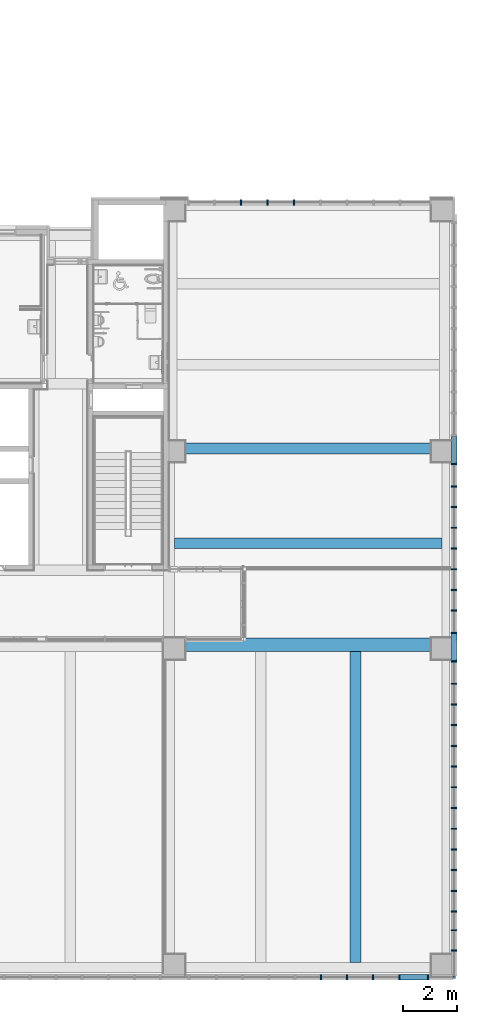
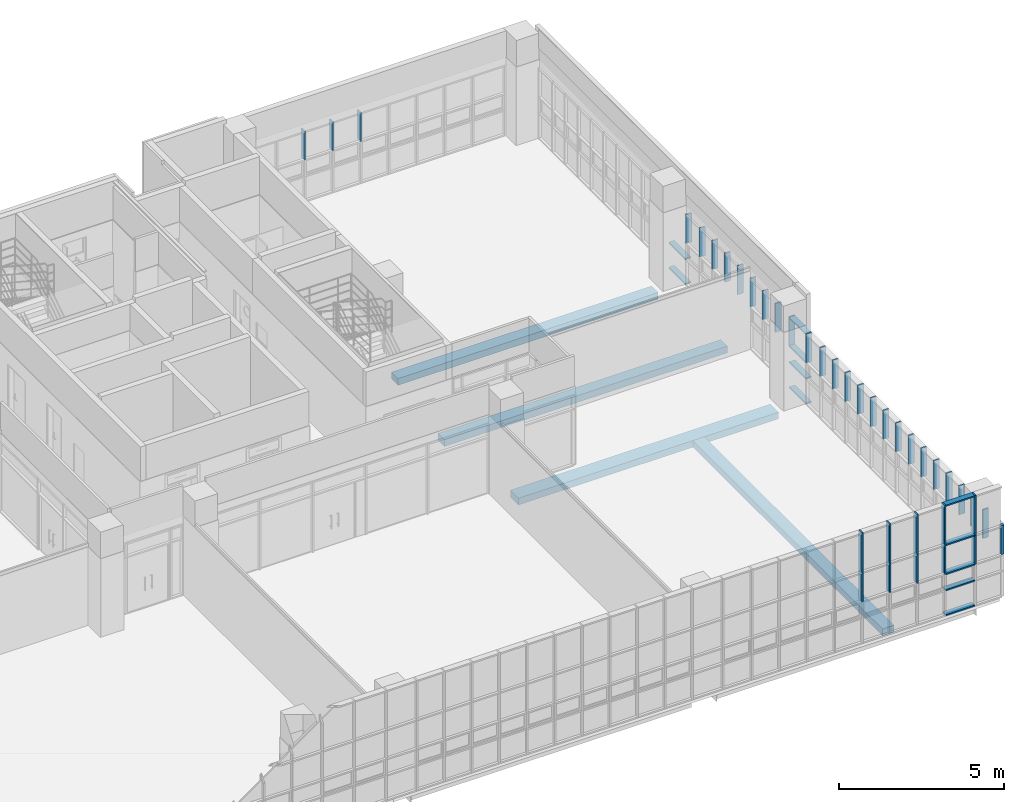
# One storey, part 8 of 76: 49 members, 4 beams, 3 elements without a shape of their own.
"""IFC2X3 building model written with IfcOpenShell, lengths in millimetres."""

from ifc_helpers import new_model, entity, si_unit, converted_unit, derived_unit, direction, frame, frame_2d, origin, origin_2d_with_axis, place, context, subcontext, project, spatial, rectangle, extrude, source, transform, mapped, material, type_object, type_shapes, element, aggregate, save


model = new_model("IFC2X3")

# Units and contexts
model_context = context("Model", 3, precision=0.01, world=origin(), true_north=direction((6.123031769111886e-17, 1.0)))
body_context = subcontext(model_context, "Body", "Model", "MODEL_VIEW")
ifc_project = project(units=[si_unit("LENGTHUNIT", "METRE", prefix="MILLI"), si_unit("AREAUNIT", "SQUARE_METRE"), si_unit("VOLUMEUNIT", "CUBIC_METRE"), converted_unit("PLANEANGLEUNIT", "DEGREE", entity("IfcRatioMeasure", 0.017453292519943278), si_unit("PLANEANGLEUNIT", "RADIAN"), dimensions=[0, 0, 0, 0, 0, 0, 0]), si_unit("MASSUNIT", "GRAM", prefix="KILO"), derived_unit("MASSDENSITYUNIT", [(si_unit("MASSUNIT", "GRAM", prefix="KILO"), 1), (si_unit("LENGTHUNIT", "METRE"), -3)]), derived_unit("MOMENTOFINERTIAUNIT", [(si_unit("LENGTHUNIT", "METRE"), 4)]), si_unit("TIMEUNIT", "SECOND"), si_unit("FREQUENCYUNIT", "HERTZ"), si_unit("THERMODYNAMICTEMPERATUREUNIT", "DEGREE_CELSIUS"), derived_unit("THERMALTRANSMITTANCEUNIT", [(si_unit("MASSUNIT", "GRAM", prefix="KILO"), 1), (si_unit("THERMODYNAMICTEMPERATUREUNIT", "KELVIN"), -1), (si_unit("TIMEUNIT", "SECOND"), -3)]), derived_unit("VOLUMETRICFLOWRATEUNIT", [(si_unit("LENGTHUNIT", "METRE"), 3), (si_unit("TIMEUNIT", "SECOND"), -1)]), derived_unit("MASSFLOWRATEUNIT", [(si_unit("MASSUNIT", "GRAM", prefix="KILO"), 1), (si_unit("TIMEUNIT", "SECOND"), -1)]), derived_unit("ROTATIONALFREQUENCYUNIT", [(si_unit("TIMEUNIT", "SECOND"), -1)]), si_unit("ELECTRICCURRENTUNIT", "AMPERE"), si_unit("ELECTRICVOLTAGEUNIT", "VOLT"), si_unit("POWERUNIT", "WATT"), si_unit("FORCEUNIT", "NEWTON", prefix="KILO"), si_unit("ILLUMINANCEUNIT", "LUX"), si_unit("LUMINOUSFLUXUNIT", "LUMEN"), si_unit("LUMINOUSINTENSITYUNIT", "CANDELA"), derived_unit("USERDEFINED", [(si_unit("MASSUNIT", "GRAM", prefix="KILO"), -1), (si_unit("LENGTHUNIT", "METRE"), -2), (si_unit("TIMEUNIT", "SECOND"), 3), (si_unit("LUMINOUSFLUXUNIT", "LUMEN"), 1)]), derived_unit("SOUNDPOWERUNIT", [(si_unit("MASSUNIT", "GRAM", prefix="KILO"), 1), (si_unit("LENGTHUNIT", "METRE"), 2), (si_unit("TIMEUNIT", "SECOND"), -3)]), derived_unit("SOUNDPRESSUREUNIT", [(si_unit("MASSUNIT", "GRAM", prefix="KILO"), 1), (si_unit("LENGTHUNIT", "METRE"), -1), (si_unit("TIMEUNIT", "SECOND"), -2)]), derived_unit("LINEARVELOCITYUNIT", [(si_unit("LENGTHUNIT", "METRE"), 1), (si_unit("TIMEUNIT", "SECOND"), -1)]), si_unit("PRESSUREUNIT", "PASCAL"), derived_unit("USERDEFINED", [(si_unit("LENGTHUNIT", "METRE"), -2), (si_unit("MASSUNIT", "GRAM", prefix="KILO"), 1), (si_unit("TIMEUNIT", "SECOND"), -2)]), derived_unit("LINEARFORCEUNIT", [(si_unit("MASSUNIT", "GRAM", prefix="KILO"), 1), (si_unit("LENGTHUNIT", "METRE"), 1), (si_unit("TIMEUNIT", "SECOND"), -2), (si_unit("LENGTHUNIT", "METRE"), -1)]), derived_unit("PLANARFORCEUNIT", [(si_unit("MASSUNIT", "GRAM", prefix="KILO"), 1), (si_unit("LENGTHUNIT", "METRE"), 1), (si_unit("TIMEUNIT", "SECOND"), -2), (si_unit("LENGTHUNIT", "METRE"), -2)])], contexts=[model_context])

# Site, building, storey
site_placement = place(None, frame((-14167.972527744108, -657.2125860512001, 0.0)))
site = spatial("IfcSite", under=ifc_project, at=site_placement, Name="Default", CompositionType="ELEMENT")
building_placement = place(site_placement, origin())
building = spatial("IfcBuilding", under=site, at=building_placement, Name="Sample Building", CompositionType="ELEMENT")
storey_placement = place(building_placement, frame((0.0, 0.0, 9300.0)))
storey = spatial("IfcBuildingStorey", under=building, at=storey_placement, Name="지상 3층", CompositionType="ELEMENT", Elevation=9300.000000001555)

# Curtain wall, members
curtain_wall_type = type_object("IfcCurtainWallType", Name="커튼월:CW112-스테인리스 스틸 커튼월", PredefinedType="NOTDEFINED")
curtain_wall_1_placement = place(storey_placement, frame((0.0, 0.0, -9300.0)))
curtain_wall_1 = element("IfcCurtainWall", 1, at=curtain_wall_1_placement, inside=storey, type_object=curtain_wall_type, Name="커튼월:CW112-스테인리스 스틸 커튼월", ObjectType="커튼월:CW112-스테인리스 스틸 커튼월")
ifc_material_1 = material(Name="<Unnamed>")
member_type_1 = type_object("IfcMemberType", Name="직사각형 멀리언:CW200-직사각형 멀리언 50x200mm", PredefinedType="MULLION", material=ifc_material_1)
shared_shape_1 = source(origin(), body_context, "Body", "SweptSolid", [
    extrude(rectangle(XDim=200.0, YDim=50.0, at=origin_2d_with_axis()), frame((0.0, 0.0, -1070.0), z_axis=(0.0, 0.0, 1.0), x_axis=(0.0, -1.0, 0.0)), (0.0, 0.0, 1.0), 1070.000000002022),
])
type_shapes(member_type_1, [shared_shape_1])
member_1_placement = place(curtain_wall_1_placement, frame((45587.969022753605, 29157.212295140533, 10930.0), z_axis=(0.0, 0.0, -1.0), x_axis=(-1.0, 0.0, 0.0)))
member_1 = element("IfcMember", 2, at=member_1_placement, type_object=member_type_1, material=ifc_material_1, Name="직사각형 멀리언:CW200-직사각형 멀리언 50x200mm", ObjectType="직사각형 멀리언:CW200-직사각형 멀리언 50x200mm", context=body_context, shape_type="MappedRepresentation", body=[
    mapped(shared_shape_1, transform((0.0, 0.0, 0.0), scale=1.0)),
])
member_2_placement = place(curtain_wall_1_placement, frame((44607.96988839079, 29157.212295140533, 10930.0), z_axis=(0.0, 0.0, -1.0), x_axis=(-1.0, 0.0, 0.0)))
member_2 = element("IfcMember", 3, at=member_2_placement, type_object=member_type_1, material=ifc_material_1, Name="직사각형 멀리언:CW200-직사각형 멀리언 50x200mm", ObjectType="직사각형 멀리언:CW200-직사각형 멀리언 50x200mm", context=body_context, shape_type="MappedRepresentation", body=[
    mapped(shared_shape_1, transform((0.0, 0.0, 0.0), scale=1.0)),
])
member_3_placement = place(curtain_wall_1_placement, frame((43627.970754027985, 29157.212295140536, 10930.0), z_axis=(0.0, 0.0, -1.0), x_axis=(-1.0, 0.0, 0.0)))
member_3 = element("IfcMember", 4, at=member_3_placement, type_object=member_type_1, material=ifc_material_1, Name="직사각형 멀리언:CW200-직사각형 멀리언 50x200mm", ObjectType="직사각형 멀리언:CW200-직사각형 멀리언 50x200mm", context=body_context, shape_type="MappedRepresentation", body=[
    mapped(shared_shape_1, transform((0.0, 0.0, 0.0), scale=1.0)),
])
aggregate(curtain_wall_1, [member_1, member_2, member_3])

curtain_wall_2_placement = place(storey_placement, frame((0.0, 0.0, -9300.0)))
curtain_wall_2 = element("IfcCurtainWall", 5, at=curtain_wall_2_placement, inside=storey, type_object=curtain_wall_type, Name="커튼월:CW112-스테인리스 스틸 커튼월", ObjectType="커튼월:CW112-스테인리스 스틸 커튼월")
member_type_2 = type_object("IfcMemberType", Name="직사각형 멀리언:CW200-직사각형 멀리언 50x200mm", PredefinedType="MULLION", material=ifc_material_1)
shared_shape_2 = source(origin(), body_context, "Body", "SweptSolid", [
    extrude(rectangle(XDim=200.0, YDim=50.0, at=origin_2d_with_axis()), frame((0.0, 0.0, -1070.0), z_axis=(0.0, 0.0, 1.0), x_axis=(0.0, -1.0, 0.0)), (0.0, 0.0, 1.0), 1070.000000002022),
])
type_shapes(member_type_2, [shared_shape_2])
member_4_placement = place(curtain_wall_2_placement, frame((46590.15607007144, 507.2122951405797, 10930.0), z_axis=(0.0, 0.0, -1.0), x_axis=(1.0, 0.0, 0.0)))
member_4 = element("IfcMember", 6, at=member_4_placement, type_object=member_type_2, material=ifc_material_1, Name="직사각형 멀리언:CW200-직사각형 멀리언 50x200mm", ObjectType="직사각형 멀리언:CW200-직사각형 멀리언 50x200mm", context=body_context, shape_type="MappedRepresentation", body=[
    mapped(shared_shape_2, transform((0.0, 0.0, 0.0), scale=1.0)),
])
member_5_placement = place(curtain_wall_2_placement, frame((47555.15607007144, 507.21229514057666, 10930.0), z_axis=(0.0, 0.0, -1.0), x_axis=(1.0, 0.0, 0.0)))
member_5 = element("IfcMember", 7, at=member_5_placement, type_object=member_type_2, material=ifc_material_1, Name="직사각형 멀리언:CW200-직사각형 멀리언 50x200mm", ObjectType="직사각형 멀리언:CW200-직사각형 멀리언 50x200mm", context=body_context, shape_type="MappedRepresentation", body=[
    mapped(shared_shape_2, transform((0.0, 0.0, 0.0), scale=1.0)),
])
member_6_placement = place(curtain_wall_2_placement, frame((48520.15607007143, 507.21229514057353, 10930.0), z_axis=(0.0, 0.0, -1.0), x_axis=(1.0, 0.0, 0.0)))
member_6 = element("IfcMember", 8, at=member_6_placement, type_object=member_type_2, material=ifc_material_1, Name="직사각형 멀리언:CW200-직사각형 멀리언 50x200mm", ObjectType="직사각형 멀리언:CW200-직사각형 멀리언 50x200mm", context=body_context, shape_type="MappedRepresentation", body=[
    mapped(shared_shape_2, transform((0.0, 0.0, 0.0), scale=1.0)),
])
member_7_placement = place(curtain_wall_2_placement, frame((49485.15607007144, 507.2122951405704, 10930.0), z_axis=(0.0, 0.0, -1.0), x_axis=(1.0, 0.0, 0.0)))
member_7 = element("IfcMember", 9, at=member_7_placement, type_object=member_type_2, material=ifc_material_1, Name="직사각형 멀리언:CW200-직사각형 멀리언 50x200mm", ObjectType="직사각형 멀리언:CW200-직사각형 멀리언 50x200mm", context=body_context, shape_type="MappedRepresentation", body=[
    mapped(shared_shape_2, transform((0.0, 0.0, 0.0), scale=1.0)),
])
member_8_placement = place(curtain_wall_2_placement, frame((50550.15607007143, 507.21229514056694, 10930.0), z_axis=(0.0, 0.0, -1.0), x_axis=(1.0, 0.0, 0.0)))
member_8 = element("IfcMember", 10, at=member_8_placement, type_object=member_type_2, material=ifc_material_1, Name="직사각형 멀리언:CW200-직사각형 멀리언 50x200mm", ObjectType="직사각형 멀리언:CW200-직사각형 멀리언 50x200mm", context=body_context, shape_type="MappedRepresentation", body=[
    mapped(shared_shape_2, transform((0.0, 0.0, 0.0), scale=1.0)),
])
member_type_3 = type_object("IfcMemberType", Name="직사각형 멀리언:CW200-직사각형 멀리언 50x200mm", PredefinedType="MULLION", material=ifc_material_1)
shared_shape_3 = source(origin(), body_context, "Body", "SweptSolid", [
    extrude(rectangle(XDim=200.0, YDim=50.0, at=origin_2d_with_axis()), frame((0.0, 0.0, -1480.0), z_axis=(0.0, 0.0, 1.0), x_axis=(0.0, -1.0, 0.0)), (0.0, 0.0, 1.0), 1479.9999999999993),
])
type_shapes(member_type_3, [shared_shape_3])
member_9_placement = place(curtain_wall_2_placement, frame((46590.15607007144, 507.2122951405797, 12000.0), z_axis=(0.0, 0.0, -1.0), x_axis=(1.0, 0.0, 0.0)))
member_9 = element("IfcMember", 11, at=member_9_placement, type_object=member_type_3, material=ifc_material_1, Name="직사각형 멀리언:CW200-직사각형 멀리언 50x200mm", ObjectType="직사각형 멀리언:CW200-직사각형 멀리언 50x200mm", context=body_context, shape_type="MappedRepresentation", body=[
    mapped(shared_shape_3, transform((0.0, 0.0, 0.0), scale=1.0)),
])
member_10_placement = place(curtain_wall_2_placement, frame((47555.15607007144, 507.21229514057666, 12000.0), z_axis=(0.0, 0.0, -1.0), x_axis=(1.0, 0.0, 0.0)))
member_10 = element("IfcMember", 12, at=member_10_placement, type_object=member_type_3, material=ifc_material_1, Name="직사각형 멀리언:CW200-직사각형 멀리언 50x200mm", ObjectType="직사각형 멀리언:CW200-직사각형 멀리언 50x200mm", context=body_context, shape_type="MappedRepresentation", body=[
    mapped(shared_shape_3, transform((0.0, 0.0, 0.0), scale=1.0)),
])
member_11_placement = place(curtain_wall_2_placement, frame((48520.15607007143, 507.21229514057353, 12000.0), z_axis=(0.0, 0.0, -1.0), x_axis=(1.0, 0.0, 0.0)))
member_11 = element("IfcMember", 13, at=member_11_placement, type_object=member_type_3, material=ifc_material_1, Name="직사각형 멀리언:CW200-직사각형 멀리언 50x200mm", ObjectType="직사각형 멀리언:CW200-직사각형 멀리언 50x200mm", context=body_context, shape_type="MappedRepresentation", body=[
    mapped(shared_shape_3, transform((0.0, 0.0, 0.0), scale=1.0)),
])
member_12_placement = place(curtain_wall_2_placement, frame((49485.15607007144, 507.2122951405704, 12000.0), z_axis=(0.0, 0.0, -1.0), x_axis=(1.0, 0.0, 0.0)))
member_12 = element("IfcMember", 14, at=member_12_placement, type_object=member_type_3, material=ifc_material_1, Name="직사각형 멀리언:CW200-직사각형 멀리언 50x200mm", ObjectType="직사각형 멀리언:CW200-직사각형 멀리언 50x200mm", context=body_context, shape_type="MappedRepresentation", body=[
    mapped(shared_shape_3, transform((0.0, 0.0, 0.0), scale=1.0)),
])
member_13_placement = place(curtain_wall_2_placement, frame((50550.15607007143, 507.21229514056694, 12000.0), z_axis=(0.0, 0.0, -1.0), x_axis=(1.0, 0.0, 0.0)))
member_13 = element("IfcMember", 15, at=member_13_placement, type_object=member_type_3, material=ifc_material_1, Name="직사각형 멀리언:CW200-직사각형 멀리언 50x200mm", ObjectType="직사각형 멀리언:CW200-직사각형 멀리언 50x200mm", context=body_context, shape_type="MappedRepresentation", body=[
    mapped(shared_shape_3, transform((0.0, 0.0, 0.0), scale=1.0)),
])
member_type_4 = type_object("IfcMemberType", Name="직사각형 멀리언:CW200-직사각형 멀리언 50x200mm", PredefinedType="MULLION", material=ifc_material_1)
shared_shape_4 = source(origin(), body_context, "Body", "SweptSolid", [
    extrude(rectangle(XDim=200.0, YDim=50.0, at=origin_2d_with_axis()), frame((-25.0, 0.0, -1015.0), z_axis=(0.0, 0.0, 1.0), x_axis=(0.0, -1.0, 0.0)), (0.0, 0.0, 1.0), 1015.000000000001),
])
type_shapes(member_type_4, [shared_shape_4])
member_14_placement = place(curtain_wall_2_placement, frame((50525.15607007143, 507.21229514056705, 13480.0), z_axis=(1.0, 0.0, 0.0), x_axis=(0.0, 0.0, 1.0)))
member_14 = element("IfcMember", 16, at=member_14_placement, type_object=member_type_4, material=ifc_material_1, Name="직사각형 멀리언:CW200-직사각형 멀리언 50x200mm", ObjectType="직사각형 멀리언:CW200-직사각형 멀리언 50x200mm", context=body_context, shape_type="MappedRepresentation", body=[
    mapped(shared_shape_4, transform((0.0, 0.0, 0.0), scale=1.0)),
])
member_type_5 = type_object("IfcMemberType", Name="직사각형 멀리언:CW200-직사각형 멀리언 50x200mm", PredefinedType="MULLION", material=ifc_material_1)
shared_shape_5 = source(origin(), body_context, "Body", "SweptSolid", [
    extrude(rectangle(XDim=200.0, YDim=50.0, at=origin_2d_with_axis()), frame((-25.0, 0.0, -1015.0), z_axis=(0.0, 0.0, 1.0), x_axis=(0.0, -1.0, 0.0)), (0.0, 0.0, 1.0), 1014.9999999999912),
])
type_shapes(member_type_5, [shared_shape_5])
member_15_placement = place(curtain_wall_2_placement, frame((49510.15607007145, 507.21229514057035, 9380.0), z_axis=(-1.0, 0.0, 0.0), x_axis=(0.0, 0.0, -1.0)))
member_15 = element("IfcMember", 17, at=member_15_placement, type_object=member_type_5, material=ifc_material_1, Name="직사각형 멀리언:CW200-직사각형 멀리언 50x200mm", ObjectType="직사각형 멀리언:CW200-직사각형 멀리언 50x200mm", context=body_context, shape_type="MappedRepresentation", body=[
    mapped(shared_shape_5, transform((0.0, 0.0, 0.0), scale=1.0)),
])
member_type_6 = type_object("IfcMemberType", Name="직사각형 멀리언:CW200-직사각형 멀리언 50x200mm", PredefinedType="MULLION", material=ifc_material_1)
shared_shape_6 = source(origin(), body_context, "Body", "SweptSolid", [
    extrude(rectangle(XDim=200.0, YDim=50.0, at=origin_2d_with_axis()), frame((0.0, 0.0, -1015.0), z_axis=(0.0, 0.0, 1.0), x_axis=(0.0, -1.0, 0.0)), (0.0, 0.0, 1.0), 1014.9999999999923),
])
type_shapes(member_type_6, [shared_shape_6])
member_16_placement = place(curtain_wall_2_placement, frame((50525.15607007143, 507.21229514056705, 10330.0), z_axis=(1.0, 0.0, 0.0), x_axis=(0.0, 0.0, 1.0)))
member_16 = element("IfcMember", 18, at=member_16_placement, type_object=member_type_6, material=ifc_material_1, Name="직사각형 멀리언:CW200-직사각형 멀리언 50x200mm", ObjectType="직사각형 멀리언:CW200-직사각형 멀리언 50x200mm", context=body_context, shape_type="MappedRepresentation", body=[
    mapped(shared_shape_6, transform((0.0, 0.0, 0.0), scale=1.0)),
])
member_17_placement = place(curtain_wall_2_placement, frame((50525.15607007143, 507.21229514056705, 10930.0), z_axis=(1.0, 0.0, 0.0), x_axis=(0.0, 0.0, 1.0)))
member_17 = element("IfcMember", 19, at=member_17_placement, type_object=member_type_6, material=ifc_material_1, Name="직사각형 멀리언:CW200-직사각형 멀리언 50x200mm", ObjectType="직사각형 멀리언:CW200-직사각형 멀리언 50x200mm", context=body_context, shape_type="MappedRepresentation", body=[
    mapped(shared_shape_6, transform((0.0, 0.0, 0.0), scale=1.0)),
])
member_18_placement = place(curtain_wall_2_placement, frame((50525.15607007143, 507.21229514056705, 12000.0), z_axis=(1.0, 0.0, 0.0), x_axis=(0.0, 0.0, 1.0)))
member_18 = element("IfcMember", 20, at=member_18_placement, type_object=member_type_6, material=ifc_material_1, Name="직사각형 멀리언:CW200-직사각형 멀리언 50x200mm", ObjectType="직사각형 멀리언:CW200-직사각형 멀리언 50x200mm", context=body_context, shape_type="MappedRepresentation", body=[
    mapped(shared_shape_6, transform((0.0, 0.0, 0.0), scale=1.0)),
])
aggregate(curtain_wall_2, [member_14, member_15, member_16, member_17, member_18, member_4, member_5, member_6, member_7, member_8, member_9, member_10, member_11, member_12, member_13])

curtain_wall_3_placement = place(storey_placement, frame((0.0, 0.0, -9300.0)))
curtain_wall_3 = element("IfcCurtainWall", 21, at=curtain_wall_3_placement, inside=storey, type_object=curtain_wall_type, Name="커튼월:CW112-스테인리스 스틸 커튼월", ObjectType="커튼월:CW112-스테인리스 스틸 커튼월")
member_type_7 = type_object("IfcMemberType", Name="직사각형 멀리언:CW200-직사각형 멀리언 100 x 100mm", PredefinedType="MULLION", material=ifc_material_1)
shared_shape_7 = source(origin(), body_context, "Body", "SweptSolid", [
    extrude(rectangle(XDim=99.99999999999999, YDim=100.0, at=origin_2d_with_axis()), frame((-50.0, 0.0, -1070.0), z_axis=(0.0, 0.0, 1.0), x_axis=(0.0, -1.0, 0.0)), (0.0, 0.0, 1.0), 1070.000000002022),
])
type_shapes(member_type_7, [shared_shape_7])
member_19_placement = place(curtain_wall_3_placement, frame((51517.96382893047, 457.2123079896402, 10930.0), z_axis=(0.0, 0.0, -1.0), x_axis=(0.0, -1.0, 0.0)))
member_19 = element("IfcMember", 22, at=member_19_placement, type_object=member_type_7, material=ifc_material_1, Name="직사각형 멀리언:CW200-직사각형 멀리언 100 x 100mm", ObjectType="직사각형 멀리언:CW200-직사각형 멀리언 100 x 100mm", context=body_context, shape_type="MappedRepresentation", body=[
    mapped(shared_shape_7, transform((0.0, 0.0, 0.0), scale=1.0)),
])
member_type_8 = type_object("IfcMemberType", Name="직사각형 멀리언:CW200-직사각형 멀리언 50x200mm", PredefinedType="MULLION", material=ifc_material_1)
shared_shape_8 = source(origin(), body_context, "Body", "SweptSolid", [
    extrude(rectangle(XDim=200.0, YDim=50.0, at=origin_2d_with_axis()), frame((0.0, 0.0, -1070.0), z_axis=(0.0, 0.0, 1.0), x_axis=(0.0, -1.0, 0.0)), (0.0, 0.0, 1.0), 1070.000000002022),
])
type_shapes(member_type_8, [shared_shape_8])
member_20_placement = place(curtain_wall_3_placement, frame((51517.963828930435, 17896.817707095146, 10930.0), z_axis=(0.0, 0.0, -1.0), x_axis=(0.0, -1.0, 0.0)))
member_20 = element("IfcMember", 23, at=member_20_placement, type_object=member_type_8, material=ifc_material_1, Name="직사각형 멀리언:CW200-직사각형 멀리언 50x200mm", ObjectType="직사각형 멀리언:CW200-직사각형 멀리언 50x200mm", context=body_context, shape_type="MappedRepresentation", body=[
    mapped(shared_shape_8, transform((0.0, 0.0, 0.0), scale=1.0)),
])
member_21_placement = place(curtain_wall_3_placement, frame((51517.963828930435, 19488.817707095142, 10930.0), z_axis=(0.0, 0.0, -1.0), x_axis=(0.0, -1.0, 0.0)))
member_21 = element("IfcMember", 24, at=member_21_placement, type_object=member_type_8, material=ifc_material_1, Name="직사각형 멀리언:CW200-직사각형 멀리언 50x200mm", ObjectType="직사각형 멀리언:CW200-직사각형 멀리언 50x200mm", context=body_context, shape_type="MappedRepresentation", body=[
    mapped(shared_shape_8, transform((0.0, 0.0, 0.0), scale=1.0)),
])
member_22_placement = place(curtain_wall_3_placement, frame((51517.96382893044, 17130.817707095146, 10930.0), z_axis=(0.0, 0.0, -1.0), x_axis=(0.0, -1.0, 0.0)))
member_22 = element("IfcMember", 25, at=member_22_placement, type_object=member_type_8, material=ifc_material_1, Name="직사각형 멀리언:CW200-직사각형 멀리언 50x200mm", ObjectType="직사각형 멀리언:CW200-직사각형 멀리언 50x200mm", context=body_context, shape_type="MappedRepresentation", body=[
    mapped(shared_shape_8, transform((0.0, 0.0, 0.0), scale=1.0)),
])
member_23_placement = place(curtain_wall_3_placement, frame((51517.96382893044, 14832.81770709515, 10930.0), z_axis=(0.0, 0.0, -1.0), x_axis=(0.0, -1.0, 0.0)))
member_23 = element("IfcMember", 26, at=member_23_placement, type_object=member_type_8, material=ifc_material_1, Name="직사각형 멀리언:CW200-직사각형 멀리언 50x200mm", ObjectType="직사각형 멀리언:CW200-직사각형 멀리언 50x200mm", context=body_context, shape_type="MappedRepresentation", body=[
    mapped(shared_shape_8, transform((0.0, 0.0, 0.0), scale=1.0)),
])
member_24_placement = place(curtain_wall_3_placement, frame((51517.96382893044, 14066.81770709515, 10930.0), z_axis=(0.0, 0.0, -1.0), x_axis=(0.0, -1.0, 0.0)))
member_24 = element("IfcMember", 27, at=member_24_placement, type_object=member_type_8, material=ifc_material_1, Name="직사각형 멀리언:CW200-직사각형 멀리언 50x200mm", ObjectType="직사각형 멀리언:CW200-직사각형 멀리언 50x200mm", context=body_context, shape_type="MappedRepresentation", body=[
    mapped(shared_shape_8, transform((0.0, 0.0, 0.0), scale=1.0)),
])
member_25_placement = place(curtain_wall_3_placement, frame((51517.96382893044, 12190.817707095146, 10930.0), z_axis=(0.0, 0.0, -1.0), x_axis=(0.0, -1.0, 0.0)))
member_25 = element("IfcMember", 28, at=member_25_placement, type_object=member_type_8, material=ifc_material_1, Name="직사각형 멀리언:CW200-직사각형 멀리언 50x200mm", ObjectType="직사각형 멀리언:CW200-직사각형 멀리언 50x200mm", context=body_context, shape_type="MappedRepresentation", body=[
    mapped(shared_shape_8, transform((0.0, 0.0, 0.0), scale=1.0)),
])
member_26_placement = place(curtain_wall_3_placement, frame((51517.96382893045, 9832.81770709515, 10930.0), z_axis=(0.0, 0.0, -1.0), x_axis=(0.0, -1.0, 0.0)))
member_26 = element("IfcMember", 29, at=member_26_placement, type_object=member_type_8, material=ifc_material_1, Name="직사각형 멀리언:CW200-직사각형 멀리언 50x200mm", ObjectType="직사각형 멀리언:CW200-직사각형 멀리언 50x200mm", context=body_context, shape_type="MappedRepresentation", body=[
    mapped(shared_shape_8, transform((0.0, 0.0, 0.0), scale=1.0)),
])
member_27_placement = place(curtain_wall_3_placement, frame((51517.96382893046, 3704.817707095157, 10930.0), z_axis=(0.0, 0.0, -1.0), x_axis=(0.0, -1.0, 0.0)))
member_27 = element("IfcMember", 30, at=member_27_placement, type_object=member_type_8, material=ifc_material_1, Name="직사각형 멀리언:CW200-직사각형 멀리언 50x200mm", ObjectType="직사각형 멀리언:CW200-직사각형 멀리언 50x200mm", context=body_context, shape_type="MappedRepresentation", body=[
    mapped(shared_shape_8, transform((0.0, 0.0, 0.0), scale=1.0)),
])
member_28_placement = place(curtain_wall_3_placement, frame((51517.96382893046, 2938.817707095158, 10930.0), z_axis=(0.0, 0.0, -1.0), x_axis=(0.0, -1.0, 0.0)))
member_28 = element("IfcMember", 31, at=member_28_placement, type_object=member_type_8, material=ifc_material_1, Name="직사각형 멀리언:CW200-직사각형 멀리언 50x200mm", ObjectType="직사각형 멀리언:CW200-직사각형 멀리언 50x200mm", context=body_context, shape_type="MappedRepresentation", body=[
    mapped(shared_shape_8, transform((0.0, 0.0, 0.0), scale=1.0)),
])
member_29_placement = place(curtain_wall_3_placement, frame((51517.96382893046, 2246.817707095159, 10930.0), z_axis=(0.0, 0.0, -1.0), x_axis=(0.0, -1.0, 0.0)))
member_29 = element("IfcMember", 32, at=member_29_placement, type_object=member_type_8, material=ifc_material_1, Name="직사각형 멀리언:CW200-직사각형 멀리언 50x200mm", ObjectType="직사각형 멀리언:CW200-직사각형 멀리언 50x200mm", context=body_context, shape_type="MappedRepresentation", body=[
    mapped(shared_shape_8, transform((0.0, 0.0, 0.0), scale=1.0)),
])
member_30_placement = place(curtain_wall_3_placement, frame((51517.96382893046, 1494.8177070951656, 10930.0), z_axis=(0.0, 0.0, -1.0), x_axis=(0.0, -1.0, 0.0)))
member_30 = element("IfcMember", 33, at=member_30_placement, type_object=member_type_8, material=ifc_material_1, Name="직사각형 멀리언:CW200-직사각형 멀리언 50x200mm", ObjectType="직사각형 멀리언:CW200-직사각형 멀리언 50x200mm", context=body_context, shape_type="MappedRepresentation", body=[
    mapped(shared_shape_8, transform((0.0, 0.0, 0.0), scale=1.0)),
])
member_31_placement = place(curtain_wall_3_placement, frame((51517.96382893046, 4470.817707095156, 10930.0), z_axis=(0.0, 0.0, -1.0), x_axis=(0.0, -1.0, 0.0)))
member_31 = element("IfcMember", 34, at=member_31_placement, type_object=member_type_8, material=ifc_material_1, Name="직사각형 멀리언:CW200-직사각형 멀리언 50x200mm", ObjectType="직사각형 멀리언:CW200-직사각형 멀리언 50x200mm", context=body_context, shape_type="MappedRepresentation", body=[
    mapped(shared_shape_8, transform((0.0, 0.0, 0.0), scale=1.0)),
])
member_32_placement = place(curtain_wall_3_placement, frame((51517.96382893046, 5236.817707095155, 10930.0), z_axis=(0.0, 0.0, -1.0), x_axis=(0.0, -1.0, 0.0)))
member_32 = element("IfcMember", 35, at=member_32_placement, type_object=member_type_8, material=ifc_material_1, Name="직사각형 멀리언:CW200-직사각형 멀리언 50x200mm", ObjectType="직사각형 멀리언:CW200-직사각형 멀리언 50x200mm", context=body_context, shape_type="MappedRepresentation", body=[
    mapped(shared_shape_8, transform((0.0, 0.0, 0.0), scale=1.0)),
])
member_33_placement = place(curtain_wall_3_placement, frame((51517.96382893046, 6002.817707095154, 10930.0), z_axis=(0.0, 0.0, -1.0), x_axis=(0.0, -1.0, 0.0)))
member_33 = element("IfcMember", 36, at=member_33_placement, type_object=member_type_8, material=ifc_material_1, Name="직사각형 멀리언:CW200-직사각형 멀리언 50x200mm", ObjectType="직사각형 멀리언:CW200-직사각형 멀리언 50x200mm", context=body_context, shape_type="MappedRepresentation", body=[
    mapped(shared_shape_8, transform((0.0, 0.0, 0.0), scale=1.0)),
])
member_34_placement = place(curtain_wall_3_placement, frame((51517.96382893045, 6768.817707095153, 10930.0), z_axis=(0.0, 0.0, -1.0), x_axis=(0.0, -1.0, 0.0)))
member_34 = element("IfcMember", 37, at=member_34_placement, type_object=member_type_8, material=ifc_material_1, Name="직사각형 멀리언:CW200-직사각형 멀리언 50x200mm", ObjectType="직사각형 멀리언:CW200-직사각형 멀리언 50x200mm", context=body_context, shape_type="MappedRepresentation", body=[
    mapped(shared_shape_8, transform((0.0, 0.0, 0.0), scale=1.0)),
])
member_35_placement = place(curtain_wall_3_placement, frame((51517.96382893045, 7534.817707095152, 10930.0), z_axis=(0.0, 0.0, -1.0), x_axis=(0.0, -1.0, 0.0)))
member_35 = element("IfcMember", 38, at=member_35_placement, type_object=member_type_8, material=ifc_material_1, Name="직사각형 멀리언:CW200-직사각형 멀리언 50x200mm", ObjectType="직사각형 멀리언:CW200-직사각형 멀리언 50x200mm", context=body_context, shape_type="MappedRepresentation", body=[
    mapped(shared_shape_8, transform((0.0, 0.0, 0.0), scale=1.0)),
])
member_36_placement = place(curtain_wall_3_placement, frame((51517.96382893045, 8300.817707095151, 10930.0), z_axis=(0.0, 0.0, -1.0), x_axis=(0.0, -1.0, 0.0)))
member_36 = element("IfcMember", 39, at=member_36_placement, type_object=member_type_8, material=ifc_material_1, Name="직사각형 멀리언:CW200-직사각형 멀리언 50x200mm", ObjectType="직사각형 멀리언:CW200-직사각형 멀리언 50x200mm", context=body_context, shape_type="MappedRepresentation", body=[
    mapped(shared_shape_8, transform((0.0, 0.0, 0.0), scale=1.0)),
])
member_37_placement = place(curtain_wall_3_placement, frame((51517.96382893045, 9066.817707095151, 10930.0), z_axis=(0.0, 0.0, -1.0), x_axis=(0.0, -1.0, 0.0)))
member_37 = element("IfcMember", 40, at=member_37_placement, type_object=member_type_8, material=ifc_material_1, Name="직사각형 멀리언:CW200-직사각형 멀리언 50x200mm", ObjectType="직사각형 멀리언:CW200-직사각형 멀리언 50x200mm", context=body_context, shape_type="MappedRepresentation", body=[
    mapped(shared_shape_8, transform((0.0, 0.0, 0.0), scale=1.0)),
])
member_38_placement = place(curtain_wall_3_placement, frame((51517.96382893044, 15598.817707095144, 10930.0), z_axis=(0.0, 0.0, -1.0), x_axis=(0.0, -1.0, 0.0)))
member_38 = element("IfcMember", 41, at=member_38_placement, type_object=member_type_8, material=ifc_material_1, Name="직사각형 멀리언:CW200-직사각형 멀리언 50x200mm", ObjectType="직사각형 멀리언:CW200-직사각형 멀리언 50x200mm", context=body_context, shape_type="MappedRepresentation", body=[
    mapped(shared_shape_8, transform((0.0, 0.0, 0.0), scale=1.0)),
])
member_39_placement = place(curtain_wall_3_placement, frame((51517.96382893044, 16364.817707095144, 10930.0), z_axis=(0.0, 0.0, -1.0), x_axis=(0.0, -1.0, 0.0)))
member_39 = element("IfcMember", 42, at=member_39_placement, type_object=member_type_8, material=ifc_material_1, Name="직사각형 멀리언:CW200-직사각형 멀리언 50x200mm", ObjectType="직사각형 멀리언:CW200-직사각형 멀리언 50x200mm", context=body_context, shape_type="MappedRepresentation", body=[
    mapped(shared_shape_8, transform((0.0, 0.0, 0.0), scale=1.0)),
])
member_40_placement = place(curtain_wall_3_placement, frame((51517.96382893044, 13240.817707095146, 10930.0), z_axis=(0.0, 0.0, -1.0), x_axis=(0.0, -1.0, 0.0)))
member_40 = element("IfcMember", 43, at=member_40_placement, type_object=member_type_8, material=ifc_material_1, Name="직사각형 멀리언:CW200-직사각형 멀리언 50x200mm", ObjectType="직사각형 멀리언:CW200-직사각형 멀리언 50x200mm", context=body_context, shape_type="MappedRepresentation", body=[
    mapped(shared_shape_8, transform((0.0, 0.0, 0.0), scale=1.0)),
])
member_type_9 = type_object("IfcMemberType", Name="직사각형 멀리언:CW200-직사각형 멀리언 50x200mm", PredefinedType="MULLION", material=ifc_material_1)
shared_shape_9 = source(origin(), body_context, "Body", "SweptSolid", [
    extrude(rectangle(XDim=200.0, YDim=50.0, at=origin_2d_with_axis()), frame((-25.0, 0.0, -1000.0), z_axis=(0.0, 0.0, 1.0), x_axis=(0.0, -1.0, 0.0)), (0.0, 0.0, 1.0), 1000.0000000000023),
])
type_shapes(member_type_9, [shared_shape_9])
member_41_placement = place(curtain_wall_3_placement, frame((51517.963828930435, 20513.817707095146, 9380.0), z_axis=(0.0, 1.0, 0.0), x_axis=(0.0, 0.0, -1.0)))
member_41 = element("IfcMember", 44, at=member_41_placement, type_object=member_type_9, material=ifc_material_1, Name="직사각형 멀리언:CW200-직사각형 멀리언 50x200mm", ObjectType="직사각형 멀리언:CW200-직사각형 멀리언 50x200mm", context=body_context, shape_type="MappedRepresentation", body=[
    mapped(shared_shape_9, transform((0.0, 0.0, 0.0), scale=1.0)),
])
member_42_placement = place(curtain_wall_3_placement, frame((51517.96382893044, 13215.817707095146, 9380.0), z_axis=(0.0, 1.0, 0.0), x_axis=(0.0, 0.0, -1.0)))
member_42 = element("IfcMember", 45, at=member_42_placement, type_object=member_type_9, material=ifc_material_1, Name="직사각형 멀리언:CW200-직사각형 멀리언 50x200mm", ObjectType="직사각형 멀리언:CW200-직사각형 멀리언 50x200mm", context=body_context, shape_type="MappedRepresentation", body=[
    mapped(shared_shape_9, transform((0.0, 0.0, 0.0), scale=1.0)),
])
member_type_10 = type_object("IfcMemberType", Name="직사각형 멀리언:CW200-직사각형 멀리언 50x200mm", PredefinedType="MULLION", material=ifc_material_1)
shared_shape_10 = source(origin(), body_context, "Body", "SweptSolid", [
    extrude(rectangle(XDim=200.0, YDim=50.0, at=origin_2d_with_axis()), frame((0.0, 0.0, -1000.0), z_axis=(0.0, 0.0, 1.0), x_axis=(0.0, -1.0, 0.0)), (0.0, 0.0, 1.0), 1000.0000000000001),
])
type_shapes(member_type_10, [shared_shape_10])
member_43_placement = place(curtain_wall_3_placement, frame((51517.963828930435, 19513.817707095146, 10330.0), z_axis=(0.0, -1.0, 0.0), x_axis=(0.0, 0.0, 1.0)))
member_43 = element("IfcMember", 46, at=member_43_placement, type_object=member_type_10, material=ifc_material_1, Name="직사각형 멀리언:CW200-직사각형 멀리언 50x200mm", ObjectType="직사각형 멀리언:CW200-직사각형 멀리언 50x200mm", context=body_context, shape_type="MappedRepresentation", body=[
    mapped(shared_shape_10, transform((0.0, 0.0, 0.0), scale=1.0)),
])
member_44_placement = place(curtain_wall_3_placement, frame((51517.96382893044, 12215.81770709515, 10330.0), z_axis=(0.0, -1.0, 0.0), x_axis=(0.0, 0.0, 1.0)))
member_44 = element("IfcMember", 47, at=member_44_placement, type_object=member_type_10, material=ifc_material_1, Name="직사각형 멀리언:CW200-직사각형 멀리언 50x200mm", ObjectType="직사각형 멀리언:CW200-직사각형 멀리언 50x200mm", context=body_context, shape_type="MappedRepresentation", body=[
    mapped(shared_shape_10, transform((0.0, 0.0, 0.0), scale=1.0)),
])
member_45_placement = place(curtain_wall_3_placement, frame((51517.96382893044, 12215.817707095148, 10930.0), z_axis=(0.0, -1.0, 0.0), x_axis=(0.0, 0.0, 1.0)))
member_45 = element("IfcMember", 48, at=member_45_placement, type_object=member_type_10, material=ifc_material_1, Name="직사각형 멀리언:CW200-직사각형 멀리언 50x200mm", ObjectType="직사각형 멀리언:CW200-직사각형 멀리언 50x200mm", context=body_context, shape_type="MappedRepresentation", body=[
    mapped(shared_shape_10, transform((0.0, 0.0, 0.0), scale=1.0)),
])
member_type_11 = type_object("IfcMemberType", Name="직사각형 멀리언:CW200-직사각형 멀리언 50x200mm", PredefinedType="MULLION", material=ifc_material_1)
shared_shape_11 = source(origin(), body_context, "Body", "SweptSolid", [
    extrude(rectangle(XDim=200.0, YDim=50.0, at=origin_2d_with_axis()), frame((-25.0, 0.0, -1000.0), z_axis=(0.0, 0.0, 1.0), x_axis=(0.0, -1.0, 0.0)), (0.0, 0.0, 1.0), 1000.0000000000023),
])
type_shapes(member_type_11, [shared_shape_11])
member_46_placement = place(curtain_wall_3_placement, frame((51517.96382893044, 12215.81770709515, 12000.0), z_axis=(0.0, -1.0, 0.0), x_axis=(0.0, 0.0, 1.0)))
member_46 = element("IfcMember", 49, at=member_46_placement, type_object=member_type_11, material=ifc_material_1, Name="직사각형 멀리언:CW200-직사각형 멀리언 50x200mm", ObjectType="직사각형 멀리언:CW200-직사각형 멀리언 50x200mm", context=body_context, shape_type="MappedRepresentation", body=[
    mapped(shared_shape_11, transform((0.0, 0.0, 0.0), scale=1.0)),
])
member_type_12 = type_object("IfcMemberType", Name="직사각형 멀리언:CW200-직사각형 멀리언 50x200mm", PredefinedType="MULLION", material=ifc_material_1)
shared_shape_12 = source(origin(), body_context, "Body", "SweptSolid", [
    extrude(rectangle(XDim=200.0, YDim=50.0, at=origin_2d_with_axis()), frame((0.0, 0.0, -1070.0), z_axis=(0.0, 0.0, 1.0), x_axis=(0.0, -1.0, 0.0)), (0.0, 0.0, 1.0), 1070.000000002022),
])
type_shapes(member_type_12, [shared_shape_12])
member_47_placement = place(curtain_wall_3_placement, frame((51517.96382893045, 10598.81770709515, 10930.0), z_axis=(0.0, 0.0, -1.0), x_axis=(0.0, -1.0, 0.0)))
member_47 = element("IfcMember", 50, at=member_47_placement, type_object=member_type_12, material=ifc_material_1, Name="직사각형 멀리언:CW200-직사각형 멀리언 50x200mm", ObjectType="직사각형 멀리언:CW200-직사각형 멀리언 50x200mm", context=body_context, shape_type="MappedRepresentation", body=[
    mapped(shared_shape_12, transform((0.0, 0.0, 0.0), scale=1.0)),
])
member_48_placement = place(curtain_wall_3_placement, frame((51517.96382893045, 11364.817707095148, 10930.0), z_axis=(0.0, 0.0, -1.0), x_axis=(0.0, -1.0, 0.0)))
member_48 = element("IfcMember", 51, at=member_48_placement, type_object=member_type_12, material=ifc_material_1, Name="직사각형 멀리언:CW200-직사각형 멀리언 50x200mm", ObjectType="직사각형 멀리언:CW200-직사각형 멀리언 50x200mm", context=body_context, shape_type="MappedRepresentation", body=[
    mapped(shared_shape_12, transform((0.0, 0.0, 0.0), scale=1.0)),
])
member_49_placement = place(curtain_wall_3_placement, frame((51517.963828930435, 18662.817707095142, 10930.0), z_axis=(0.0, 0.0, -1.0), x_axis=(0.0, -1.0, 0.0)))
member_49 = element("IfcMember", 52, at=member_49_placement, type_object=member_type_12, material=ifc_material_1, Name="직사각형 멀리언:CW200-직사각형 멀리언 50x200mm", ObjectType="직사각형 멀리언:CW200-직사각형 멀리언 50x200mm", context=body_context, shape_type="MappedRepresentation", body=[
    mapped(shared_shape_12, transform((0.0, 0.0, 0.0), scale=1.0)),
])
aggregate(curtain_wall_3, [member_19, member_41, member_43, member_20, member_21, member_22, member_23, member_24, member_46, member_25, member_26, member_27, member_28, member_29, member_30, member_31, member_32, member_33, member_34, member_35, member_36, member_37, member_38, member_39, member_42, member_44, member_45, member_40, member_47, member_48, member_49])

# Beams
ifc_material_2 = material(Name="KBIMS-콘크리트")
beam_type_1 = type_object("IfcBeamType", Name="BM111-철근콘크리트구조 보:BM110-철근 콘크리트구조 보_500 x 400_2-10G9", PredefinedType="NOTDEFINED")
beam_1_placement = place(storey_placement, frame((51267.955221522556, 12807.212551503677, 0.0), z_axis=(0.0, 0.0, 1.0), x_axis=(-1.0, 0.0, 0.0)))
element("IfcBeam", 53, at=beam_1_placement, inside=storey, type_object=beam_type_1, material=ifc_material_2, Name="BM111-철근콘크리트구조 보:BM110-철근 콘크리트구조 보_500 x 400_2-10G9", ObjectType="BM111-철근콘크리트구조 보:BM110-철근 콘크리트구조 보_500 x 400_2-10G9", context=body_context, shape_type="SweptSolid", body=[
    extrude(rectangle(XDim=250.00000000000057, YDim=500.0000000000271, at=frame_2d((5.400124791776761e-13, -1.8417267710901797e-11), x_axis=(1.0, 0.0))), frame((600.00008557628, 0.0, -275.0), z_axis=(1.0, 0.0, 0.0), x_axis=(0.0, 0.0, -1.0)), (0.0, 0.0, 1.0), 9099.999994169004),
])
beam_type_2 = type_object("IfcBeamType", Name="BM111-철근콘크리트구조 보:BM110-철근 콘크리트구조 보_400 x 400_2-10G1", PredefinedType="NOTDEFINED")
beam_2_placement = place(storey_placement, frame((41017.9726074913, 20057.21256687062, 0.0)))
element("IfcBeam", 54, at=beam_2_placement, inside=storey, type_object=beam_type_2, material=ifc_material_2, Name="BM111-철근콘크리트구조 보:BM110-철근 콘크리트구조 보_400 x 400_2-10G1", ObjectType="BM111-철근콘크리트구조 보:BM110-철근 콘크리트구조 보_400 x 400_2-10G1", context=body_context, shape_type="SweptSolid", body=[
    extrude(rectangle(XDim=250.00000000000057, YDim=400.00000000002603, at=frame_2d((5.400124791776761e-13, -1.9483081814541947e-11), x_axis=(1.0, 0.0))), frame((549.9825145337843, 0.0, -275.0), z_axis=(1.0, 0.0, 0.0), x_axis=(0.0, 0.0, -1.0)), (0.0, 0.0, 1.0), 9100.00874351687),
])
beam_type_3 = type_object("IfcBeamType", Name="BM111-철근콘크리트구조 보:BM110-철근 콘크리트구조 보_400 x 400_2-10B2", PredefinedType="NOTDEFINED")
beam_3_placement = place(storey_placement, frame((47867.946448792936, 12807.212551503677, 0.0), z_axis=(0.0, 0.0, 1.0), x_axis=(0.0, -1.0, 0.0)))
element("IfcBeam", 55, at=beam_3_placement, inside=storey, type_object=beam_type_3, material=ifc_material_2, Name="BM111-철근콘크리트구조 보:BM110-철근 콘크리트구조 보_400 x 400_2-10B2", ObjectType="BM111-철근콘크리트구조 보:BM110-철근 콘크리트구조 보_400 x 400_2-10B2", context=body_context, shape_type="SweptSolid", body=[
    extrude(rectangle(XDim=250.00000000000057, YDim=400.0000000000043, at=frame_2d((5.400124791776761e-13, 4.334310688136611e-12), x_axis=(1.0, 0.0))), frame((250.0, 0.0, -275.0), z_axis=(1.0, 0.0, 0.0), x_axis=(0.0, 0.0, -1.0)), (0.0, 0.0, 1.0), 11500.0001605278),
])
beam_type_4 = type_object("IfcBeamType", Name="BM111-철근콘크리트구조 보:BM110-철근 콘크리트구조 보_400 x 400_2-10B1", PredefinedType="NOTDEFINED")
beam_4_placement = place(storey_placement, frame((40967.955141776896, 16557.21245257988, 0.0)))
element("IfcBeam", 56, at=beam_4_placement, inside=storey, type_object=beam_type_4, material=ifc_material_2, Name="BM111-철근콘크리트구조 보:BM110-철근 콘크리트구조 보_400 x 400_2-10B1", ObjectType="BM111-철근콘크리트구조 보:BM110-철근 콘크리트구조 보_400 x 400_2-10B1", context=body_context, shape_type="SweptSolid", body=[
    extrude(rectangle(XDim=250.00000000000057, YDim=400.0000000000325, at=frame_2d((5.400124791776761e-13, -2.05773176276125e-11), x_axis=(1.0, 0.0))), frame((200.0, 0.0, -275.0), z_axis=(1.0, 0.0, 0.0), x_axis=(0.0, 0.0, -1.0)), (0.0, 0.0, 1.0), 9900.00007974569),
])

save(model, "model.ifc")
